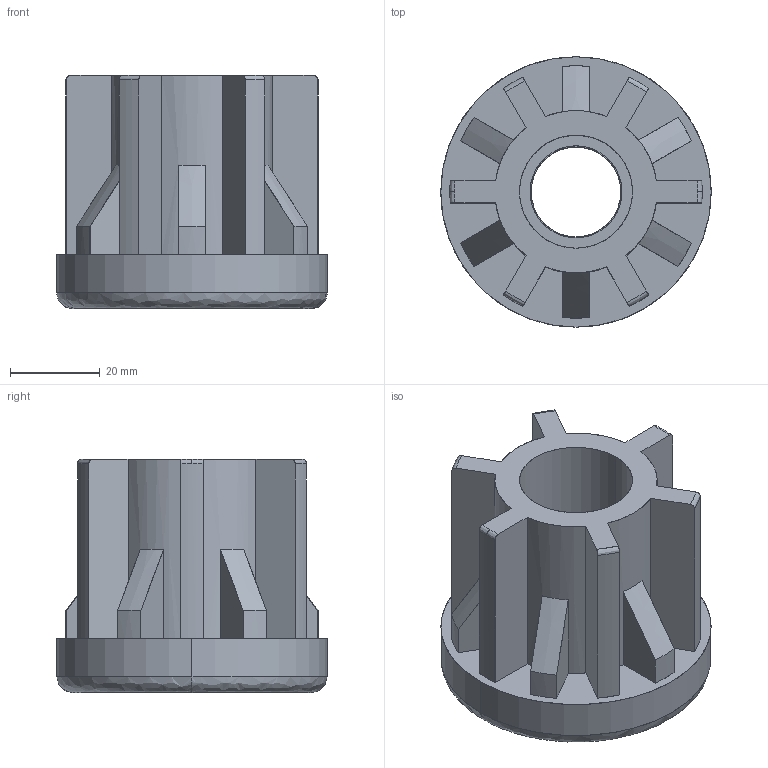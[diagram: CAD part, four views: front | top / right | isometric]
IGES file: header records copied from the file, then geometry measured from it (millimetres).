
Start section: SolidWorks IGES file using analytic representation for surfaces
Global section: file name: Y:\Tecnodin, S.L\PLAPP-Dirección - Documentos\General\Models CAD\Actiby\42006460320.IGS; native system: SolidWorks 2018; preprocessor: SolidWorks 2018; author: GerPro; date: 200225.182658; units: millimetre
Bounding box: 60.3 x 60.3 x 52 mm (x, y, z)
Surface area: 24696.4 mm2 (no closed solid volume)
Topology: 0 solids, 0 shells, 108 faces, 1214 edges, 1214 vertices
Faces by surface type: revolution 54, bspline 54
